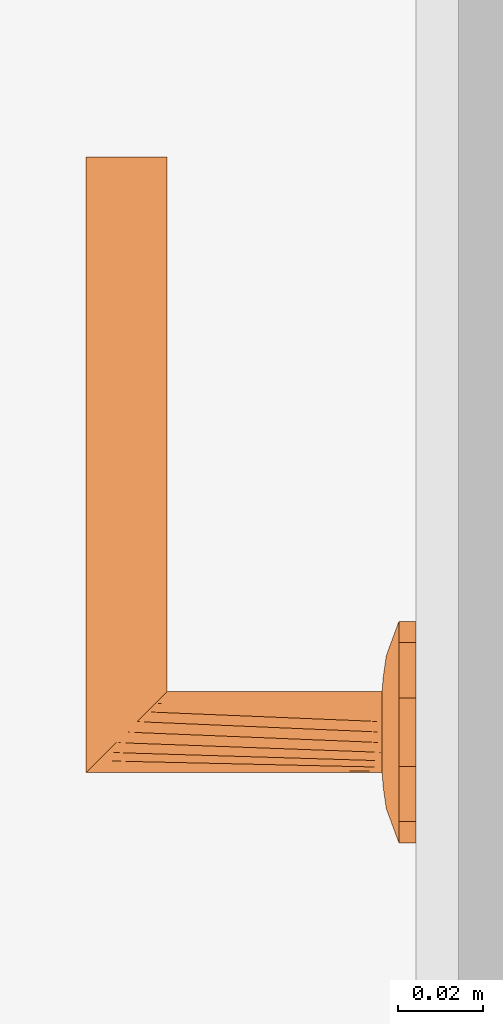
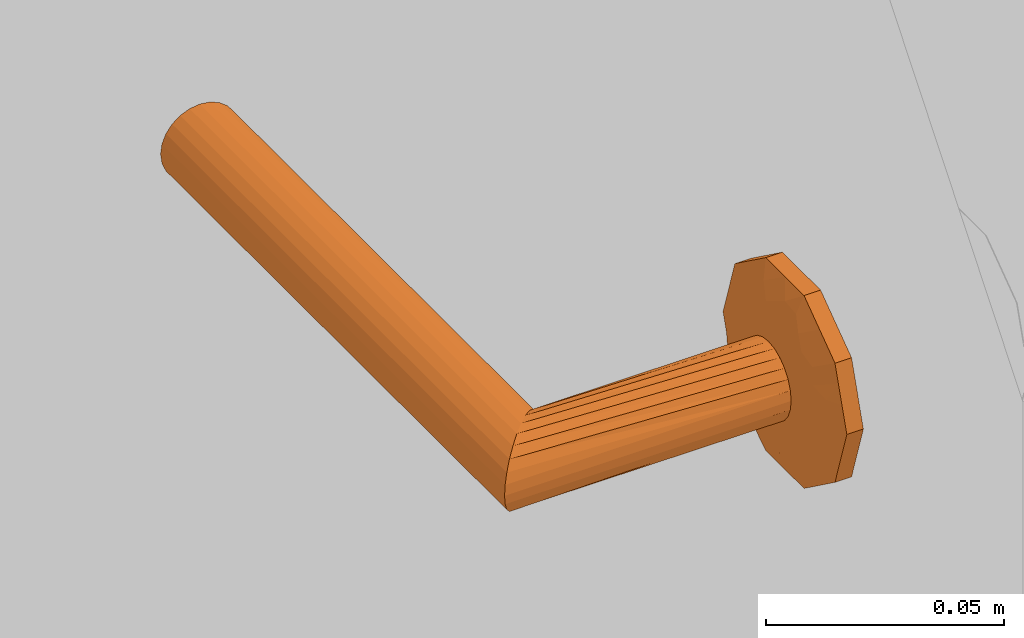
# One storey, part 24 of 55: 1 proxy.
"""IFC2X3 building model written with IfcOpenShell, lengths in millimetres."""

from ifc_helpers import new_model, entity, si_unit, converted_unit, direction, frame, origin, place, context, subcontext, project, spatial, faceted_brep, source, transform, mapped, material, type_object, type_shapes, element, save


model = new_model("IFC2X3")

# Units and contexts
model_context = context("Model", 3, precision=0.01, world=origin(), true_north=direction((6.123233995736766e-17, 1.0)))
plan_context = context("Plan", 3, precision=0.01, world=origin(), true_north=direction((6.123233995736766e-17, 1.0)))
body_context = subcontext(model_context, "Body", "Model", "MODEL_VIEW")
ifc_project = project(units=[si_unit("LENGTHUNIT", "METRE", prefix="MILLI"), converted_unit("PLANEANGLEUNIT", "DEGREE", entity("IfcPlaneAngleMeasure", 0.017453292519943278), si_unit("PLANEANGLEUNIT", "RADIAN"), dimensions=[0, 0, 0, 0, 0, 0, 0]), si_unit("AREAUNIT", "SQUARE_METRE")], contexts=[model_context, plan_context])

# Site, building, storey, space
site_placement = place(None, origin())
site = spatial("IfcSite", under=ifc_project, at=site_placement, Name="Default", CompositionType="ELEMENT")
building_placement = place(site_placement, origin())
building = spatial("IfcBuilding", under=site, at=building_placement, CompositionType="ELEMENT")
storey_placement = place(building_placement, origin())
storey = spatial("IfcBuildingStorey", under=building, at=storey_placement, Name="1K", CompositionType="ELEMENT", Elevation=0.0)
space_placement = place(storey_placement, origin())
space = spatial("IfcSpace", under=storey, at=space_placement, Name="1-0.1", CompositionType="ELEMENT", InteriorOrExteriorSpace="INTERNAL")

# Proxy
ifc_material = material(Name="<Unnamed>")
building_element_proxy_type = type_object("IfcBuildingElementProxyType", Name="Door-handle_Lever_ABLOY_INOXI_3-19ss-002_RT:Default", PredefinedType="NOTDEFINED", material=ifc_material)
shared_shape = source(origin(), body_context, "Body", "Brep", [
    faceted_brep([(0.0, 0.0, 0.0), (21.034441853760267, -15.282416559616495, 0.0), (14.534441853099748, -20.00494299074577, 0.0), (8.034441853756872, -24.72746942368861, 0.0), (0.0, -24.72746942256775, 0.0), (23.51722092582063, -7.6412082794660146, 0.0), (26.0, 0.0, 0.0), (-8.034441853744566, -24.727469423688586, 0.0), (-14.534441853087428, -20.00494299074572, 0.0), (-21.03444185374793, -15.282416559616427, 0.0), (-23.517220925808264, -7.641208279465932, 0.0), (-26.0, 0.0, 0.0), (-23.517220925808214, 7.641208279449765, 0.0), (23.517220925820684, 7.641208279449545, 0.0), (21.034441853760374, 15.282416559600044, 0.0), (14.53444185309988, 20.00494299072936, 0.0), (8.034441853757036, 24.72746942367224, 0.0), (-21.034441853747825, 15.282416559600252, 0.0), (-14.53444185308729, 20.004942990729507, 0.0), (-8.0344418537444, 24.72746942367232, 0.0), (0.0, 24.72746942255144, 0.0), (0.0, 0.0, 8.0), (4.7500000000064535, -8.227241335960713, 8.0), (5.937500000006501, -6.170431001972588, 8.0), (7.125000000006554, -4.113620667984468, 8.0), (8.312500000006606, -2.0568103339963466, 8.0), (9.500000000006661, 0.0, 8.0), (8.312500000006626, 2.056810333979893, 8.0), (2.3750000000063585, -8.227241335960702, 8.0), (0.0, -8.227241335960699, 8.0), (-2.3749999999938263, -8.227241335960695, 8.0), (-4.749999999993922, -8.227241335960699, 8.0), (-5.937499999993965, -6.170431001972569, 8.0), (-7.124999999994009, -4.113620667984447, 8.0), (-8.312499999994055, -2.056810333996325, 8.0), (-9.499999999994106, 0.0, 8.0), (7.125000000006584, 4.113620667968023, 8.0), (5.937500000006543, 6.170431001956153, 8.0), (4.750000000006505, 8.227241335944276, 8.0), (2.3750000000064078, 8.22724133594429, 8.0), (-8.31249999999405, 2.0568103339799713, 8.0), (-7.12499999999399, 4.113620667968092, 8.0), (-5.9374999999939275, 6.170431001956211, 8.0), (-4.74999999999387, 8.227241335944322, 8.0), (0.0, 8.227241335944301, 8.0), (-2.374999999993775, 8.227241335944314, 8.0), (-22.488765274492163, -10.806469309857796, 4.030771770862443), (-16.663919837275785, -7.932665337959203, 6.877259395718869), (-20.643071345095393, -6.292822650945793, 5.929480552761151), (-12.50457926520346, -5.179566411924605, 7.774932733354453), (-16.764060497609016, -3.820257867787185, 7.1747985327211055), (-9.071726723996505, -10.311606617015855, 7.7520782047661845), (-11.963426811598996, -8.625290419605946, 7.618343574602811), (-11.979136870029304, -13.678312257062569, 6.945778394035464), (5.7585542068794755, -20.96753300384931, 5.871476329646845), (0.0, -24.72746942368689, 4.030771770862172), (8.03444185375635, -24.727469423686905, 4.030771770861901), (16.66391982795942, -7.932665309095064, 6.877259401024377), (22.488765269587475, -10.806469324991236, 4.03077177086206), (20.64307133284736, -6.29282258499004, 5.929480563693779), (14.534441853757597, -20.004942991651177, 4.030771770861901), (9.499431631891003, -18.64368355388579, 6.154325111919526), (-15.783149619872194, -11.991003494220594, 6.50080018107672), (-21.034441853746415, -15.282416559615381, 4.030771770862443), (-14.53444185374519, -20.00494299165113, 4.030771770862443), (-23.012042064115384, 0.0, 5.135401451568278), (-23.943088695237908, -6.330522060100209, 4.030771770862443), (11.96342678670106, -8.62529049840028, 7.618343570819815), (12.504579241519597, -5.179566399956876, 7.774932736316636), (16.764060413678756, -3.8202578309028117, 7.17479855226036), (15.783149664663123, -11.991003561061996, 6.50080015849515), (17.985351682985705, 0.0, 6.993737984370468), (23.012042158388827, 0.0, 5.135401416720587), (8.661516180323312, -10.478936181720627, 7.768126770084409), (-8.03444185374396, -24.727469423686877, 4.030771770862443), (-3.3573143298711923, -21.197247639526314, 5.971427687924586), (-9.941915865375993, -17.061976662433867, 6.522757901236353), (-5.973257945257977, -16.430139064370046, 7.110979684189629), (-7.711266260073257, -12.760344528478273, 7.594456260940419), (11.979136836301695, -13.678312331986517, 6.945778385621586), (7.511307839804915, -13.358932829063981, 7.529187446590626), (5.953298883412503, -16.50608604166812, 7.096344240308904), (-1.5654593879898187, -15.307443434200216, 7.519134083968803), (-7.784980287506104, -20.476295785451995, 5.812837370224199), (2.8135289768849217, -17.76392260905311, 6.993737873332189), (-17.98535168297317, 0.0, 6.993737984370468), (-26.0, 0.0, 4.030771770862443), (-23.51722092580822, -7.641208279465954, 4.030771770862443), (23.943088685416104, -6.33052209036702, 4.030771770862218), (24.308823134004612, -5.204907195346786, 4.030771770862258), (26.0, 0.0, 4.030771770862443), (21.03444185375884, -15.282416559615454, 4.030771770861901), (22.617646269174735, -10.40981439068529, 4.030771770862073), (22.488765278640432, 10.806469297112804, 4.030771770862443), (16.66391984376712, 7.932665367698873, 6.877259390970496), (20.643071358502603, 6.292822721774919, 5.929480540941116), (12.504579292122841, 5.179566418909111, 7.774932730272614), (16.764060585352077, 3.8202579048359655, 7.174798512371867), (9.07172672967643, 10.31160659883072, 7.752078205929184), (11.963426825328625, 8.62529034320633, 7.618343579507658), (11.979136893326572, 13.67831220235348, 6.9457784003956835), (-5.758554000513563, 20.96753314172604, 5.8714763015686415), (0.0, 24.72746942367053, 4.030771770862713), (-8.03444185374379, 24.72746942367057, 4.030771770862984), (-16.663919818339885, 7.932665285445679, 6.877259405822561), (-22.48876526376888, 10.806469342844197, 4.030771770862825), (-20.643071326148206, 6.2928225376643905, 5.929480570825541), (-14.534441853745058, 20.004942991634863, 4.030771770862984), (-9.499431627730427, 18.643683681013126, 6.154325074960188), (15.783149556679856, 11.991003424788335, 6.5008002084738), (21.03444185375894, 15.282416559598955, 4.030771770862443), (14.534441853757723, 20.004942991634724, 4.030771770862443), (23.943088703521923, 6.330522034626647, 4.030771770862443), (-11.96342675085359, 8.625290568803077, 7.618343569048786), (-12.504579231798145, 5.179566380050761, 7.77493273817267), (-16.764060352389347, 3.820257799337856, 7.174798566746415), (-15.78314967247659, 11.991003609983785, 6.500800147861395), (-8.661516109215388, 10.478936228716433, 7.768126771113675), (8.034441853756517, 24.727469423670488, 4.030771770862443), (3.3573144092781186, 21.197247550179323, 5.971427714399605), (9.941915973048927, 17.061976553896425, 6.522757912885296), (5.9732581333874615, 16.430139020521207, 7.110979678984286), (7.711266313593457, 12.760344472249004, 7.5944562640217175), (-11.979136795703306, 13.678312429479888, 6.945778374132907), (-7.511307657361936, 13.358932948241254, 7.5291874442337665), (-5.9532988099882, 16.50608628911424, 7.096344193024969), (1.5654596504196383, 15.3074431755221, 7.519134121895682), (7.784980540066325, 20.476295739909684, 5.812837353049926), (-2.81352881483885, 17.76392263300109, 6.993737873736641), (23.51722092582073, 7.6412082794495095, 4.030771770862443), (-23.94308867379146, 6.330522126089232, 4.030771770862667), (-24.308823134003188, 5.20490719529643, 4.030771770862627), (-21.034441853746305, 15.282416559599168, 4.030771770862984), (-22.617646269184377, 10.409814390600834, 4.0307717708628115)], [[[0, 1, 2]], [[0, 2, 3]], [[0, 3, 4]], [[0, 5, 1]], [[0, 6, 5]], [[0, 4, 7]], [[0, 7, 8]], [[0, 8, 9]], [[0, 9, 10]], [[0, 10, 11]], [[0, 11, 12]], [[0, 13, 6]], [[0, 14, 13]], [[0, 15, 14]], [[0, 16, 15]], [[0, 12, 17]], [[0, 17, 18]], [[0, 18, 19]], [[0, 19, 20]], [[0, 20, 16]], [[21, 22, 23]], [[21, 23, 24]], [[21, 24, 25]], [[21, 25, 26]], [[21, 26, 27]], [[21, 28, 22]], [[21, 29, 28]], [[21, 30, 29]], [[21, 31, 30]], [[21, 32, 31]], [[21, 33, 32]], [[21, 34, 33]], [[21, 35, 34]], [[21, 27, 36]], [[21, 36, 37]], [[21, 37, 38]], [[21, 38, 39]], [[21, 40, 35]], [[21, 41, 40]], [[21, 42, 41]], [[21, 43, 42]], [[21, 39, 44]], [[21, 44, 45]], [[21, 45, 43]], [[46, 47, 48]], [[47, 49, 50]], [[49, 33, 34]], [[51, 52, 53]], [[49, 52, 33]], [[48, 47, 50]], [[54, 55, 56]], [[57, 58, 59]], [[56, 60, 61]], [[62, 63, 64]], [[65, 66, 48]], [[67, 57, 68]], [[68, 69, 25]], [[57, 67, 70]], [[69, 26, 25]], [[62, 53, 52]], [[71, 69, 72]], [[67, 23, 73]], [[74, 55, 75]], [[76, 77, 78]], [[79, 60, 70]], [[69, 59, 72]], [[80, 81, 61]], [[77, 30, 78]], [[82, 30, 77]], [[28, 80, 22]], [[77, 83, 75]], [[75, 82, 77]], [[55, 84, 75]], [[85, 50, 35]], [[24, 68, 25]], [[82, 84, 29]], [[84, 82, 75]], [[31, 78, 30]], [[82, 29, 30]], [[34, 35, 50]], [[52, 49, 47]], [[62, 52, 47]], [[34, 50, 49]], [[53, 78, 51]], [[32, 33, 52]], [[85, 65, 50]], [[66, 65, 86]], [[67, 68, 24]], [[77, 76, 83]], [[65, 48, 50]], [[63, 62, 46]], [[48, 66, 87, 46]], [[62, 47, 46]], [[69, 68, 57]], [[80, 73, 22]], [[70, 67, 79]], [[67, 24, 23]], [[72, 88, 89, 90]], [[69, 71, 26]], [[59, 69, 57]], [[61, 60, 79]], [[62, 64, 53]], [[91, 58, 70]], [[72, 59, 88]], [[57, 70, 58]], [[59, 58, 92]], [[80, 61, 79]], [[91, 70, 60]], [[61, 81, 54]], [[73, 80, 79]], [[28, 84, 81]], [[67, 73, 79]], [[29, 84, 28]], [[22, 73, 23]], [[51, 31, 32]], [[76, 78, 53]], [[53, 64, 76]], [[83, 64, 74]], [[64, 83, 76]], [[75, 83, 74]], [[31, 51, 78]], [[52, 51, 32]], [[28, 81, 80]], [[54, 81, 84]], [[55, 54, 84]], [[61, 54, 56]], [[93, 94, 95]], [[94, 96, 97]], [[96, 36, 27]], [[98, 99, 100]], [[96, 99, 36]], [[95, 94, 97]], [[101, 102, 103]], [[104, 105, 106]], [[103, 107, 108]], [[109, 110, 111]], [[72, 112, 95]], [[113, 104, 114]], [[114, 115, 40]], [[104, 113, 116]], [[115, 35, 40]], [[109, 100, 99]], [[85, 115, 65]], [[113, 42, 117]], [[118, 102, 119]], [[120, 121, 122]], [[123, 107, 116]], [[115, 106, 65]], [[124, 125, 108]], [[121, 39, 122]], [[126, 39, 121]], [[45, 124, 43]], [[121, 127, 119]], [[119, 126, 121]], [[102, 128, 119]], [[71, 97, 26]], [[41, 114, 40]], [[126, 128, 44]], [[128, 126, 119]], [[38, 122, 39]], [[126, 44, 39]], [[27, 26, 97]], [[99, 96, 94]], [[109, 99, 94]], [[27, 97, 96]], [[100, 122, 98]], [[37, 36, 99]], [[71, 72, 97]], [[112, 72, 90]], [[113, 114, 41]], [[121, 120, 127]], [[72, 95, 97]], [[110, 109, 93]], [[95, 112, 129, 93]], [[109, 94, 93]], [[115, 114, 104]], [[124, 117, 43]], [[116, 113, 123]], [[113, 41, 42]], [[65, 130, 131, 86]], [[115, 85, 35]], [[106, 115, 104]], [[108, 107, 123]], [[109, 111, 100]], [[132, 105, 116]], [[65, 106, 130]], [[104, 116, 105]], [[106, 105, 133]], [[124, 108, 123]], [[132, 116, 107]], [[108, 125, 101]], [[117, 124, 123]], [[45, 128, 125]], [[113, 117, 123]], [[44, 128, 45]], [[43, 117, 42]], [[98, 38, 37]], [[120, 122, 100]], [[100, 111, 120]], [[127, 111, 118]], [[111, 127, 120]], [[119, 127, 118]], [[38, 98, 122]], [[99, 98, 37]], [[45, 125, 124]], [[101, 125, 128]], [[102, 101, 128]], [[108, 101, 103]], [[7, 74, 64, 63, 9, 8]], [[10, 9, 63, 46, 87, 66, 86, 11]], [[6, 90, 89, 88, 92, 1, 5]], [[1, 58, 91]], [[74, 7, 4, 3, 56, 55]], [[60, 56, 3, 2, 1, 91]], [[1, 92, 58]], [[14, 110, 93, 129, 112, 90, 6, 13]], [[111, 110, 14, 15, 16, 118]], [[11, 86, 131, 130, 133, 17, 12]], [[17, 105, 132]], [[118, 16, 20, 19, 103, 102]], [[107, 103, 19, 18, 17, 132]], [[17, 133, 105]], [[59, 92, 88]], [[106, 133, 130]]]),
    faceted_brep([(4.7499999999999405, -8.22724133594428, 8.0), (2.4587809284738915, -9.176295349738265, 8.0), (0.0, -9.499999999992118, 8.0), (-2.4587809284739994, -9.176295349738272, 8.0), (-4.7500000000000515, -8.227241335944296, 8.0), (-6.717514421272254, -6.717514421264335, 8.0), (-8.227241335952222, -4.74999999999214, 8.0), (-9.176295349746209, -2.4587809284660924, 8.0), (-9.500000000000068, 0.0, 8.0), (-9.176295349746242, 2.458780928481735, 8.0), (-8.227241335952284, 4.750000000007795, 8.0), (-6.717514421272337, 6.717514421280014, 8.0), (-4.750000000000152, 8.227241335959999, 8.0), (-2.4587809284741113, 9.176295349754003, 8.0), (0.0, 9.500000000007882, 8.0), (2.4587809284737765, 9.176295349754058, 8.0), (4.7499999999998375, 8.227241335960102, 8.0), (6.717514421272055, 6.717514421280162, 8.0), (8.22724133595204, 4.75000000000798, 8.0), (9.17629534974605, 2.458780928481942, 8.0), (9.499999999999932, 0.0, 8.0), (9.17629534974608, -2.458780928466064, 8.0), (8.227241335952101, -4.749999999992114, 8.0), (6.717514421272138, -6.7175144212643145, 8.0), (-8.227241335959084, 4.7499999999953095, 59.772758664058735), (-6.717514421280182, 6.7175144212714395, 61.282485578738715), (-9.176295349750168, 2.458780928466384, 58.82370465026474), (-4.750000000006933, 8.227241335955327, 63.25000000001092), (-2.4587809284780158, 9.176295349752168, 65.54121907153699), (-9.500000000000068, 0.0, 58.50000000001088), (0.0, 9.50000000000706, 68.0), (4.750000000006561, 8.227241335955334, 72.75000000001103), (2.4587809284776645, 9.17629534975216, 70.45878092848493), (6.717514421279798, 6.7175144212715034, 74.71751442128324), (8.22724133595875, 4.749999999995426, 76.22724133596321), (9.17629534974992, 2.458780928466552, 77.17629534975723), (9.499999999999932, 0.0, 77.50000000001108), (9.176295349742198, -2.4587809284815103, 77.1762953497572), (8.227241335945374, -4.750000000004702, 76.22724133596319), (6.7175144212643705, -6.717514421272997, 74.7175144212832), (4.749999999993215, -8.227241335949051, 72.75000000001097), (2.4587809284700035, -9.17629534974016, 70.45878092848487), (0.0, -9.49999999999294, 68.0), (-2.4587809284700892, -9.176295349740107, 65.54121907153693), (-4.749999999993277, -8.227241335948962, 63.250000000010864), (-6.717514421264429, -6.717514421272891, 61.282485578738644), (-9.176295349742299, -2.458780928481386, 58.8237046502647), (-8.227241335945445, -4.750000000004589, 59.77275866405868), (-135.0, -9.176295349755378, 70.4587809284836), (-135.0, -8.227241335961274, 72.75000000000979), (-135.0, -6.717514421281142, 74.71751442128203), (-135.0, -4.750000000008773, 76.22724133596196), (-135.0, -2.4587809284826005, 77.17629534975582), (-135.0, 0.0, 77.5000000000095), (-135.0, 2.4587809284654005, 77.17629534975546), (-135.0, 4.749999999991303, 76.22724133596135), (-135.0, 6.717514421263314, 74.71751442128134), (-135.0, 8.227241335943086, 72.75000000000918), (-135.0, 9.17629534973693, 70.45878092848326), (-135.0, 9.499999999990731, 68.0), (-135.0, 9.17629534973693, 65.54121907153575), (-135.0, 8.227241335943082, 63.250000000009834), (-135.0, 6.717514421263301, 61.28248557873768), (-135.0, 4.749999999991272, 59.772758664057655), (-135.0, 2.458780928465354, 58.823704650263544), (-135.0, 0.0, 58.50000000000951), (-135.0, -2.458780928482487, 58.82370465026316), (-135.0, -4.750000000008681, 59.772758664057), (-135.0, -6.7175144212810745, 61.28248557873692), (-135.0, -8.227241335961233, 63.25000000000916), (-135.0, -9.176295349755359, 65.54121907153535), (-135.0, -9.500000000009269, 68.0)], [[[0, 1, 2, 3, 4, 5, 6, 7, 8, 9, 10, 11, 12, 13, 14, 15, 16, 17, 18, 19, 20, 21, 22, 23]], [[24, 25, 11, 10]], [[26, 24, 10, 9]], [[14, 27, 28]], [[13, 27, 14]], [[25, 27, 13]], [[29, 26, 9, 8]], [[12, 11, 25]], [[25, 13, 12]], [[28, 30, 15]], [[31, 17, 32]], [[33, 18, 31]], [[19, 34, 35]], [[33, 34, 19]], [[20, 19, 35, 36]], [[16, 15, 30]], [[14, 28, 15]], [[19, 18, 33]], [[17, 31, 18]], [[17, 16, 32]], [[30, 32, 16]], [[20, 36, 37, 21]], [[38, 21, 37]], [[22, 39, 40]], [[38, 39, 21]], [[23, 40, 41]], [[39, 22, 21]], [[1, 42, 43]], [[42, 1, 0]], [[23, 41, 0]], [[23, 22, 40]], [[41, 42, 0]], [[44, 45, 3]], [[43, 44, 2]], [[46, 29, 8, 7]], [[47, 46, 7, 6]], [[45, 47, 6, 5]], [[45, 4, 3]], [[3, 2, 44]], [[5, 4, 45]], [[43, 2, 1]], [[48, 49, 50, 51, 52, 53, 54, 55, 56, 57, 58, 59, 60, 61, 62, 63, 64, 65, 66, 67, 68, 69, 70, 71]], [[64, 63, 24, 26]], [[65, 64, 26, 29]], [[61, 60, 28, 27]], [[62, 61, 27, 25]], [[63, 62, 25, 24]], [[59, 30, 28, 60]], [[57, 56, 33, 31]], [[58, 57, 31, 32]], [[54, 53, 36, 35]], [[55, 54, 35, 34]], [[56, 55, 34, 33]], [[32, 30, 59, 58]], [[52, 51, 38, 37]], [[53, 52, 37, 36]], [[49, 48, 41, 40]], [[50, 49, 40, 39]], [[51, 50, 39, 38]], [[42, 41, 48, 71]], [[69, 68, 45, 44]], [[70, 69, 44, 43]], [[66, 65, 29, 46]], [[67, 66, 46, 47]], [[68, 67, 47, 45]], [[42, 71, 70, 43]]]),
])
type_shapes(building_element_proxy_type, [shared_shape])
proxy_placement = place(space_placement, frame((7080.0, 3220.0, 1000.0), z_axis=(-1.0, 0.0, 0.0), x_axis=(0.0, -1.0, 0.0)))
element("IfcBuildingElementProxy", 1, at=proxy_placement, inside=space, type_object=building_element_proxy_type, material=ifc_material, Name="Door-handle_Lever_ABLOY_INOXI_3-19ss-002_RT:Default", ObjectType="Door-handle_Lever_ABLOY_INOXI_3-19ss-002_RT:Default", context=body_context, shape_type="MappedRepresentation", body=[
    mapped(shared_shape, transform((0.0, 0.0, 0.0), scale=1.0)),
])

save(model, "model.ifc")
